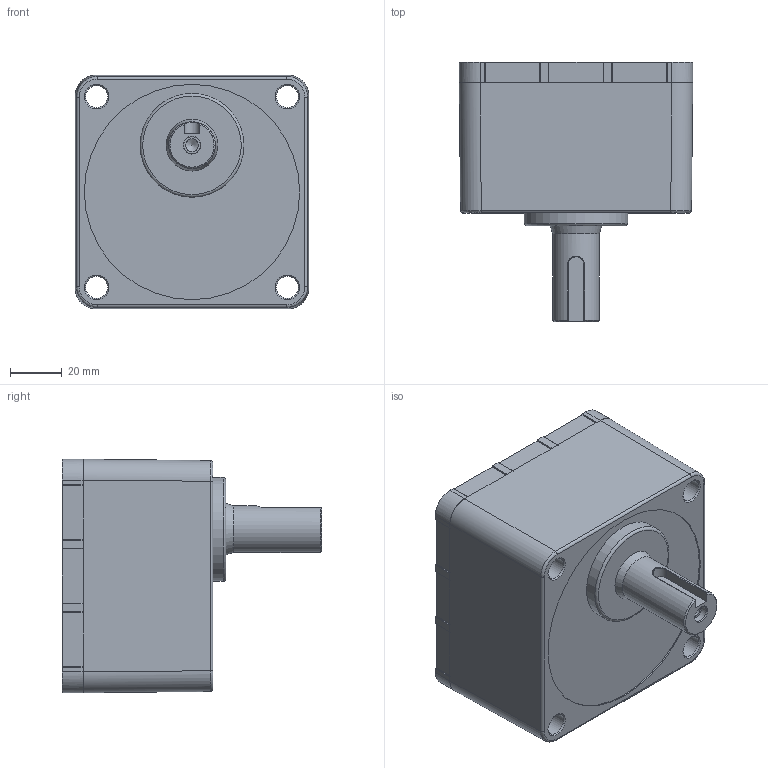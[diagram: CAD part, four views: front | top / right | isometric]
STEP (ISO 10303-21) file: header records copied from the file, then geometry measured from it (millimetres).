
FILE_DESCRIPTION((''),'2;1');
FILE_NAME('E:\2공장-도면\3D\STEP FILE\K9H(30~100)B.stp','2014-08-18T15:37:34',('輺'),(''),'Autodesk Inventor 2008','Autodesk Inventor 2008','');
FILE_SCHEMA(('CONFIG_CONTROL_DESIGN'));
Length unit declared in the file: millimetre
Products named in the file (1): 부품49
Bounding box: 90 x 100 x 90 mm (x, y, z)
Volume: 441269.4 mm3; surface area: 45691.2 mm2
Topology: 1 solids, 1 shells, 157 faces, 385 edges, 240 vertices
Faces by surface type: plane 113, cylinder 28, cone 10, bspline 5, torus 1
Full cylindrical faces by diameter (mm): 4.917 x1, 6.5 x1, 8.5 x4, 9 x1, 9.3 x4, 18 x1, 40 x1, 82 x1, 83 x1
Entity records: 4969 total; most frequent: CARTESIAN_POINT 1173, DIRECTION 729, ORIENTED_EDGE 712, EDGE_CURVE 356, VECTOR 281, LINE 281, VERTEX_POINT 236, AXIS2_PLACEMENT_3D 224
